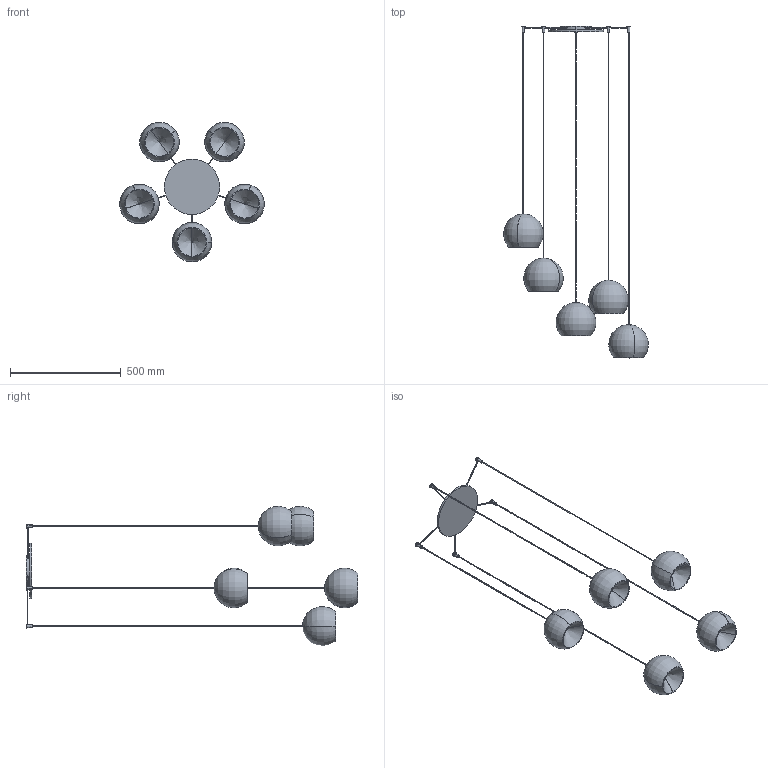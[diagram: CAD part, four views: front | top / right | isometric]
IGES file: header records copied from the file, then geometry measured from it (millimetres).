
Start section: SolidWorks IGES file using analytic representation for surfaces
Global section: file name: Y:\eforma\TECNICO\SOLIDWORKS\E-FORMA\09-LAMPADE\CHERRY\08 modelli 3D web\CHR05-00-CHERRY_5 sospensione.IGS; native system: SolidWorks 2022; preprocessor: SolidWorks 2022; author: eforma.tech; date: 240801.143857; units: millimetre
Bounding box: 654.86 x 1500 x 630.33 mm (x, y, z)
Volume: 1729764 mm3; surface area: 1249807.8 mm2
Topology: 26 solids, 26 shells, 193 faces, 408 edges, 258 vertices
Faces by surface type: revolution 134, plane 59
